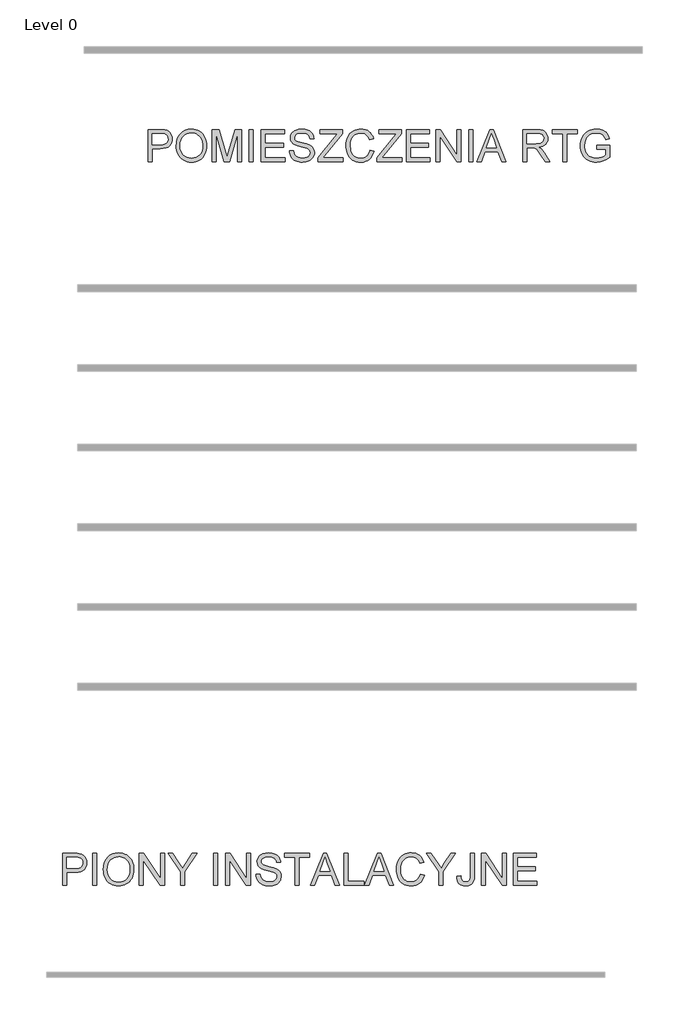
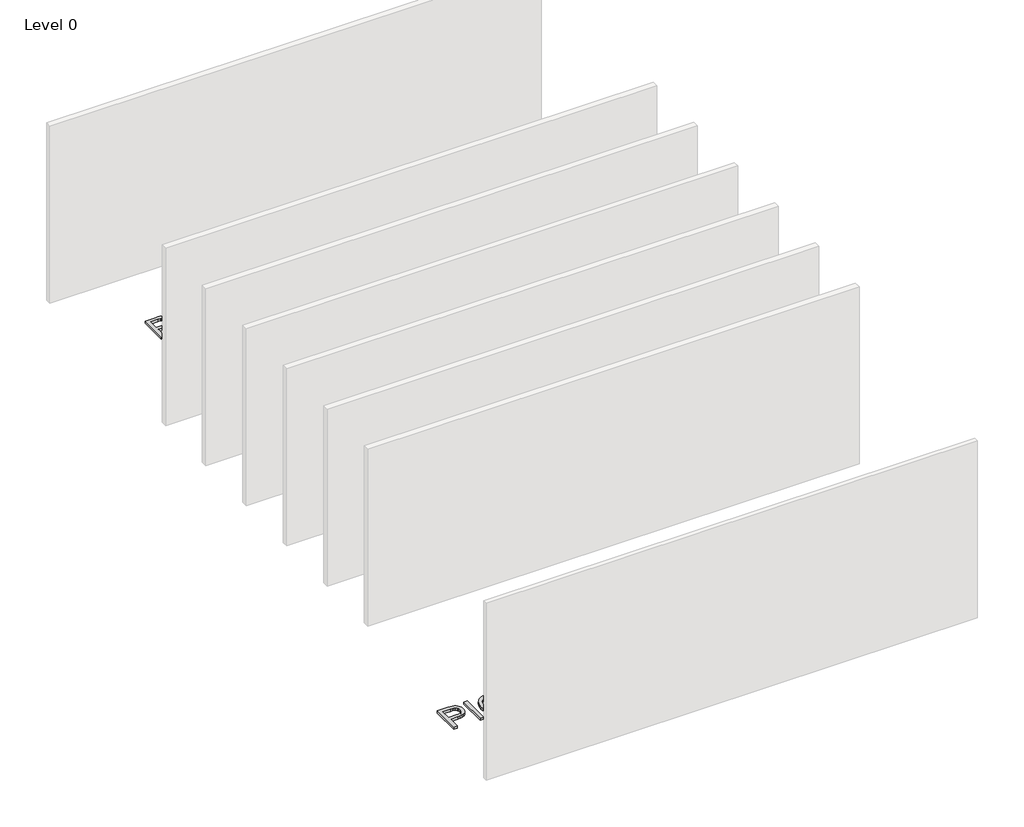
# One storey, part 2 of 3: 2 proxies.
"""IFC4 building model written with IfcOpenShell, lengths in millimetres."""

from ifc_helpers import new_model, si_unit, origin, origin_with_axes, place, context, project, spatial, polyline, outline, extrude, element, save

model = new_model("IFC4")

# Units and contexts
model_context = context("Model", 3, world=origin())
ifc_project = project(units=[si_unit("LENGTHUNIT", "METRE", prefix="MILLI")], contexts=[model_context])

# Site, building, storey
site = spatial("IfcSite", under=ifc_project)
building = spatial("IfcBuilding", under=site)
storey = spatial("IfcBuildingStorey", under=building, Name="Level 0", Elevation=0.0)

# Proxies
placement = place(None, origin())
element("IfcBuildingElementProxy", 1, Name="600mm Arial", ObjectType="600mm Arial", at=placement, inside=storey, context=model_context, shape_type="SweptSolid", body=[
    extrude(outline(polyline([(-3413.91469, -45.2086998), (-3413.91469, 557.5291611), (-3190.5367426, 557.5291611), (-3138.5182285, 556.0944213), (-3100.4792302, 551.7902019), (-3060.3249104, 541.0664418), (-3027.2707131, 523.6104411), (-3000.6544508, 498.6312536), (-2979.8139357, 465.3379331), (-2966.3494547, 426.0665301), (-2961.8612944, 383.1530954), (-2964.8917223, 346.1533637), (-2973.9830061, 312.1150821), (-2989.1351458, 281.0382505), (-3010.3481413, 252.9228691), (-3039.4705998, 229.6175447), (-3078.3511281, 212.9708844), (-3126.9897264, 202.9828882), (-3185.3863946, 199.6535562), (-3338.5724574, 199.6535562), (-3338.5724574, -45.2086998), (-3413.91469, -45.2086998)]), holes=[polyline([(-3338.5724574, 274.9957888), (-3180.9718107, 274.9957888), (-3144.7354342, 276.7248341), (-3114.1644404, 281.9119703), (-3089.2588293, 290.5571972), (-3070.018601, 302.6605148), (-3055.6620061, 317.9000265), (-3045.4072955, 335.9538354), (-3039.2544691, 356.8219415), (-3037.203527, 380.504345), (-3042.0411752, 414.3494885), (-3056.5541199, 442.8971314), (-3078.9397393, 464.3814399), (-3107.3954117, 477.0365805), (-3136.4580893, 480.8993415), (-3182.7376443, 482.1869285), (-3338.5724574, 482.1869285), (-3338.5724574, 274.9957888)])]), origin_with_axes(), (0.0, 0.0, 1.0), 50.0),
    extrude(outline(polyline([(-2848.8479455, -45.2086998), (-2848.8479455, 557.5291611), (-2773.5057128, 557.5291611), (-2773.5057128, -45.2086998), (-2848.8479455, -45.2086998)])), origin_with_axes(), (0.0, 0.0, 1.0), 50.0),
    extrude(outline(polyline([(-2651.0745848, 248.2139795), (-2646.0529956, 318.9117019), (-2630.9882279, 381.4976264), (-2605.8802817, 435.9717528), (-2589.5601167, 460.1668918), (-2570.7291571, 482.3340813), (-2527.6409784, 519.352207), (-2478.7218701, 545.7937254), (-2423.9718322, 561.6586365), (-2363.3908646, 566.9469401), (-2322.8410717, 564.4637367), (-2284.3330239, 557.0141263), (-2247.8667211, 544.5981089), (-2213.4421634, 527.2156847), (-2182.025041, 505.3910853), (-2154.5810442, 479.6485427), (-2131.1101729, 449.9880568), (-2111.6124271, 416.4096277), (-2096.290142, 379.6766105), (-2085.3456527, 340.5523603), (-2078.7789591, 299.0368772), (-2076.5900612, 255.130161), (-2078.8939222, 210.6440308), (-2085.8055052, 168.5675276), (-2097.3248101, 128.9006514), (-2113.4518371, 91.6434024), (-2133.8049085, 57.7798647), (-2158.0023467, 28.2941228), (-2186.0441518, 3.1861766), (-2217.9303237, -17.5439738), (-2252.4054652, -33.7675698), (-2288.2141789, -45.3558526), (-2325.3564648, -52.3088223), (-2363.832323, -54.6264789), (-2405.0902888, -52.0651005), (-2444.1041744, -44.3809653), (-2480.8739798, -31.5740734), (-2515.399705, -13.6444246), (-2546.7800392, 8.7136036), (-2574.1136715, 34.8056341), (-2597.4006018, 64.6316669), (-2616.6408301, 98.1917019), (-2631.7055978, 134.1383713), (-2642.4661462, 171.1243074), (-2648.9224752, 209.1495102), (-2651.0745848, 248.2139795)]), holes=[polyline([(-2575.7323522, 247.4782155), (-2571.9661603, 197.5290376), (-2560.6675845, 153.1900602), (-2541.8366249, 114.4612831), (-2515.4732814, 81.3427065), (-2483.4261611, 54.8184147), (-2447.543871, 35.8724919), (-2407.8264111, 24.5049383), (-2364.2737814, 20.7157537), (-2319.9761907, 24.5417265), (-2279.7896812, 36.0196447), (-2243.7142531, 55.1495085), (-2211.7499062, 81.9313177), (-2185.5797008, 115.7488701), (-2166.8866969, 155.9859633), (-2155.6708946, 202.6425974), (-2151.9322938, 255.7187722), (-2153.5325805, 290.1985122), (-2158.3334405, 322.4157779), (-2166.3348739, 352.3705694), (-2177.5368807, 380.0628866), (-2191.8153006, 405.129446), (-2209.0459735, 427.2069643), (-2229.2288995, 446.2954413), (-2252.3640785, 462.3948771), (-2277.7341406, 475.1741779), (-2304.6217159, 484.3022499), (-2333.0268044, 489.7790931), (-2362.9494062, 491.6047075), (-2404.9891212, 488.086836), (-2443.9938098, 477.5332212), (-2479.9634718, 459.9438633), (-2512.8981075, 435.3187623), (-2540.3880896, 402.4714986), (-2560.023791, 360.215653), (-2571.8052119, 308.5512253), (-2575.7323522, 247.4782155)])]), origin_with_axes(), (0.0, 0.0, 1.0), 50.0),
    extrude(outline(polyline([(-1972.9944913, -45.2086998), (-1972.9944913, 557.5291611), (-1892.354758, 557.5291611), (-1577.4477701, 80.0183313), (-1577.4477701, 557.5291611), (-1502.1055375, 557.5291611), (-1502.1055375, -45.2086998), (-1582.7452709, -45.2086998), (-1897.6522587, 432.4492827), (-1897.6522587, -45.2086998), (-1972.9944913, -45.2086998)])), origin_with_axes(), (0.0, 0.0, 1.0), 50.0),
    extrude(outline(polyline([(-1200.7366071, -45.2086998), (-1200.7366071, 210.1014048), (-1436.181084, 557.5291611), (-1347.3007939, 557.5291611), (-1221.6323044, 371.9694827), (-1157.3265316, 277.3502335), (-1092.8736061, 378.7385114), (-978.8301876, 557.5291611), (-889.9498975, 557.5291611), (-1125.3943745, 210.1014048), (-1125.3943745, -45.2086998), (-1200.7366071, -45.2086998)])), origin_with_axes(), (0.0, 0.0, 1.0), 50.0),
    extrude(outline(polyline([(-579.163188, -45.2086998), (-579.163188, 557.5291611), (-503.8209554, 557.5291611), (-503.8209554, -45.2086998), (-579.163188, -45.2086998)])), origin_with_axes(), (0.0, 0.0, 1.0), 50.0),
    extrude(outline(polyline([(-353.1364902, -45.2086998), (-353.1364902, 557.5291611), (-272.4967568, 557.5291611), (42.410231, 80.0183313), (42.410231, 557.5291611), (117.7524636, 557.5291611), (117.7524636, -45.2086998), (37.1127303, -45.2086998), (-277.7942576, 432.4492827), (-277.7942576, -45.2086998), (-353.1364902, -45.2086998)])), origin_with_axes(), (0.0, 0.0, 1.0), 50.0),
    extrude(outline(polyline([(221.3480335, 161.9824399), (296.6902661, 161.9824399), (305.335493, 120.1726511), (320.9704778, 86.5666308), (345.3610541, 59.8951862), (380.2730554, 38.8891243), (422.9473668, 25.2590963), (470.6248734, 20.7157537), (512.6002091, 24.1554504), (549.3516204, 34.4745403), (579.1316679, 50.8085009), (600.1929121, 72.2928094), (612.7192941, 96.9592972), (616.8947547, 122.8397956), (613.7677577, 148.0581063), (604.3867669, 169.8551145), (585.3304795, 188.4515494), (553.1775931, 204.0681401), (443.4751822, 232.8365121), (371.4622816, 251.8744054), (325.3850617, 269.9925936), (287.8794923, 295.3396631), (261.3000182, 326.0578097), (245.4626983, 361.4848458), (240.1835916, 400.9585839), (241.816068, 423.3947871), (246.7134971, 445.0860292), (254.8758788, 466.0323103), (266.3032133, 486.2336304), (280.8667418, 504.8668535), (298.4377056, 521.1088435), (319.0161047, 534.9596007), (342.6019391, 546.4191248), (395.6137346, 561.8149863), (454.2909128, 566.9469401), (517.8609216, 561.575863), (573.4846793, 545.4626316), (597.8200733, 533.4604815), (619.1756231, 518.9383398), (637.5513287, 501.8962063), (652.9471902, 482.3340813), (665.2436459, 460.8221816), (674.3211342, 437.9307244), (680.1796549, 413.6597098), (682.8192082, 388.0091377), (607.4769756, 388.0091377), (602.4369923, 412.0502261), (593.6446126, 432.9643175), (581.0998366, 450.751412), (564.8026642, 465.4115095), (544.4495928, 476.8710336), (519.7371198, 485.056408), (490.6652451, 489.9676327), (457.2339688, 491.6047075), (422.7358347, 489.9860268), (393.2592898, 485.1299844), (368.8043342, 477.0365805), (349.3709678, 465.7058151), (334.5637175, 452.0849842), (323.9871101, 437.121384), (317.6411457, 420.8150146), (315.5258243, 403.1658759), (317.0249434, 387.9815465), (321.5223008, 374.2135629), (329.0178964, 361.8619249), (339.5117303, 350.9266326), (356.0296319, 340.5707544), (382.038889, 330.1045116), (462.5314695, 308.8409323), (545.599224, 288.6442108), (595.8519046, 271.0226632), (638.8021275, 243.689031), (655.4074011, 227.6217848), (668.766116, 209.954252), (679.0346222, 190.778403), (686.3692695, 170.1862083), (692.2369873, 124.7527819), (690.5493287, 101.1853416), (685.4863527, 78.30768), (677.0480594, 56.1197972), (665.2344489, 34.6216931), (650.2524546, 14.6457008), (632.3090103, -2.9758468), (611.4041159, -18.2429496), (587.5377715, -31.1556076), (561.4043543, -41.4241138), (533.6982415, -48.7587611), (473.5679294, -54.6264789), (435.0276919, -53.0445863), (399.7524071, -48.2989086), (367.7420749, -40.3894457), (338.9966955, -29.3161976), (313.3415249, -15.0607703), (290.6018191, 2.3952303), (270.7775781, 23.0518044), (253.8688019, 46.9089518), (240.247971, 73.1941203), (230.287566, 101.1347578), (223.9875868, 130.7308644), (221.3480335, 161.9824399)])), origin_with_axes(), (0.0, 0.0, 1.0), 50.0),
    extrude(outline(polyline([(955.9348015, -45.2086998), (955.9348015, 482.1869285), (758.1614409, 482.1869285), (758.1614409, 557.5291611), (1229.0503947, 557.5291611), (1229.0503947, 482.1869285), (1031.2770341, 482.1869285), (1031.2770341, -45.2086998), (955.9348015, -45.2086998)])), origin_with_axes(), (0.0, 0.0, 1.0), 50.0),
    extrude(outline(polyline([(1243.6185217, -45.2086998), (1484.2133465, 557.5291611), (1548.3719665, 557.5291611), (1788.9667913, -45.2086998), (1709.3571276, -45.2086998), (1640.3424653, 143.1468817), (1392.0956949, 143.1468817), (1323.2281854, -45.2086998), (1243.6185217, -45.2086998)]), holes=[polyline([(1419.760421, 218.4891143), (1612.824892, 218.4891143), (1558.5255096, 366.671982), (1516.2926565, 482.1869285), (1478.768693, 379.6214282), (1419.760421, 218.4891143)])]), origin_with_axes(), (0.0, 0.0, 1.0), 50.0),
    extrude(outline(polyline([(1869.4593719, -45.2086998), (1869.4593719, 557.5291611), (1944.8016045, 557.5291611), (1944.8016045, 30.1335328), (2246.1705349, 30.1335328), (2246.1705349, -45.2086998), (1869.4593719, -45.2086998)])), origin_with_axes(), (0.0, 0.0, 1.0), 50.0),
    extrude(outline(polyline([(2260.738662, -45.2086998), (2501.3334868, 557.5291611), (2565.4921068, 557.5291611), (2806.0869316, -45.2086998), (2726.4772678, -45.2086998), (2657.4626056, 143.1468817), (2409.2158352, 143.1468817), (2340.3483257, -45.2086998), (2260.738662, -45.2086998)]), holes=[polyline([(2436.8805612, 218.4891143), (2629.9450323, 218.4891143), (2575.6456498, 366.671982), (2533.4127968, 482.1869285), (2495.8888333, 379.6214282), (2436.8805612, 218.4891143)])]), origin_with_axes(), (0.0, 0.0, 1.0), 50.0),
    extrude(outline(polyline([(3310.3795706, 169.0457742), (3385.7218032, 149.6216048), (3370.8133853, 102.7672342), (3350.9569547, 61.8265667), (3326.1525111, 26.7996022), (3296.4000548, -2.3136592), (3262.3709702, -25.2005178), (3224.7366421, -41.548274), (3183.4970705, -51.3569277), (3138.6522552, -54.6264789), (3092.7083926, -52.1524725), (3051.2618873, -44.7304532), (3014.3127394, -32.3604212), (2981.8609489, -15.0423762), (2953.4604589, 6.9661641), (2928.6652124, 33.4076825), (2907.4752095, 64.282179), (2889.8904501, 99.5896535), (2876.0810797, 137.8033957), (2866.2172437, 177.3966954), (2860.2989421, 218.3695527), (2858.3261749, 260.7219674), (2860.5564595, 306.1645908), (2867.2473133, 348.608976), (2878.3987363, 388.0551229), (2894.0107285, 424.5030316), (2913.7338019, 457.3502953), (2937.2184688, 485.9945071), (2964.4647291, 510.4356672), (2995.4725827, 530.6737754), (3029.1889676, 546.543285), (3064.5608214, 557.878649), (3101.5881442, 564.6798673), (3140.270936, 566.9469401), (3183.3637132, 564.0130812), (3222.878838, 555.2115045), (3258.8163104, 540.5422099), (3291.1761304, 520.0051976), (3319.4248691, 494.1430933), (3343.0290977, 463.4985231), (3361.988816, 428.071487), (3376.3040241, 387.8619849), (3300.9617915, 369.9093435), (3289.0975972, 399.5376397), (3274.8421699, 424.8525195), (3258.1955096, 445.8539829), (3239.1576163, 462.5420299), (3217.6181255, 475.2569514), (3193.4666725, 484.3390381), (3166.7032574, 489.7882902), (3137.3278801, 491.6047075), (3103.5287218, 489.5905536), (3072.6174371, 483.5480918), (3044.5940261, 473.4773222), (3019.4584888, 459.3782448), (2997.5281234, 441.8854559), (2979.120228, 421.633552), (2964.2348028, 398.6225332), (2952.8718477, 372.8523995), (2938.4692676, 317.7068884), (2933.6684075, 260.8691202), (2939.3521844, 191.2658467), (2946.4569054, 159.9958771), (2956.4035148, 131.0803523), (2969.3529611, 105.0940878), (2985.4661925, 82.6118994), (3004.743209, 63.633787), (3027.1840107, 48.1597505), (3051.6987472, 36.1530019), (3077.1975679, 27.5767529), (3103.6804731, 22.4310035), (3131.1474625, 20.7157537), (3163.9027557, 23.0518044), (3194.0368896, 30.0599564), (3221.5498643, 41.7402097), (3246.4416798, 58.0925644), (3268.1237249, 79.043444), (3286.0073884, 104.5192722), (3300.0926703, 134.5200489), (3310.3795706, 169.0457742)])), origin_with_axes(), (0.0, 0.0, 1.0), 50.0),
    extrude(outline(polyline([(3658.8373964, -45.2086998), (3658.8373964, 210.1014048), (3423.3929195, 557.5291611), (3512.2732095, 557.5291611), (3637.9416991, 371.9694827), (3702.2474719, 277.3502335), (3766.7003974, 378.7385114), (3880.7438159, 557.5291611), (3969.6241059, 557.5291611), (3734.179629, 210.1014048), (3734.179629, -45.2086998), (3658.8373964, -45.2086998)])), origin_with_axes(), (0.0, 0.0, 1.0), 50.0),
    extrude(outline(polyline([(3997.8774432, 124.0170179), (4073.2196758, 133.7291026), (4075.8776232, 103.7743112), (4081.0555623, 78.9514735), (4088.753493, 59.2605897), (4098.9714155, 44.7016598), (4111.5529797, 34.2078259), (4126.3418359, 26.7122302), (4143.3379841, 22.2148728), (4162.5414242, 20.7157537), (4190.3716972, 24.1186622), (4214.1184799, 34.3273875), (4232.4390033, 50.4038307), (4243.990498, 71.4098926), (4250.1157332, 101.8153395), (4252.1574782, 146.0899377), (4252.1574782, 557.5291611), (4327.4997109, 557.5291611), (4327.4997109, 147.4143128), (4322.9563682, 80.331031), (4317.2771899, 53.2043324), (4309.3263403, 30.354262), (4298.9060828, 10.8703118), (4285.8186808, -6.158026), (4270.0641344, -20.7307516), (4251.6424435, -32.8478648), (4208.7290087, -49.1818254), (4159.0097571, -54.6264789), (4121.8812667, -51.8167802), (4089.3696954, -43.387684), (4061.4750431, -29.3391903), (4038.1973098, -9.6712991), (4019.9503629, 15.5424131), (4007.1480695, 46.2283701), (3999.7904296, 82.3865717), (3997.8774432, 124.0170179)])), origin_with_axes(), (0.0, 0.0, 1.0), 50.0),
    extrude(outline(polyline([(4459.3486179, -45.2086998), (4459.3486179, 557.5291611), (4539.9883513, 557.5291611), (4854.8953391, 80.0183313), (4854.8953391, 557.5291611), (4930.2375718, 557.5291611), (4930.2375718, -45.2086998), (4849.5978384, -45.2086998), (4534.6908505, 432.4492827), (4534.6908505, -45.2086998), (4459.3486179, -45.2086998)])), origin_with_axes(), (0.0, 0.0, 1.0), 50.0),
    extrude(outline(polyline([(5062.0864788, -45.2086998), (5062.0864788, 557.5291611), (5495.3043163, 557.5291611), (5495.3043163, 482.1869285), (5137.4287114, 482.1869285), (5137.4287114, 303.249126), (5476.4687582, 303.249126), (5476.4687582, 227.9068934), (5137.4287114, 227.9068934), (5137.4287114, 30.1335328), (5504.7220954, 30.1335328), (5504.7220954, -45.2086998), (5062.0864788, -45.2086998)])), origin_with_axes(), (0.0, 0.0, 1.0), 50.0),
])
element("IfcBuildingElementProxy", 2, Name="600mm Arial", ObjectType="600mm Arial", at=placement, inside=storey, context=model_context, shape_type="SweptSolid", body=[
    extrude(outline(polyline([(-1809.4556873, 13552.9545985), (-1809.4556873, 14155.6924594), (-1586.0777399, 14155.6924594), (-1534.0592257, 14154.2577196), (-1496.0202274, 14149.9535003), (-1455.8659077, 14139.2297401), (-1422.8117104, 14121.7737394), (-1396.1954481, 14096.794552), (-1375.354933, 14063.5012314), (-1361.890452, 14024.2298284), (-1357.4022917, 13981.3163937), (-1360.4327196, 13944.316662), (-1369.5240034, 13910.2783804), (-1384.6761431, 13879.2015489), (-1405.8891386, 13851.0861674), (-1435.0115971, 13827.780843), (-1473.8921254, 13811.1341827), (-1522.5307237, 13801.1461865), (-1580.9273919, 13797.8168545), (-1734.1134547, 13797.8168545), (-1734.1134547, 13552.9545985), (-1809.4556873, 13552.9545985)]), holes=[polyline([(-1734.1134547, 13873.1590871), (-1576.512808, 13873.1590871), (-1540.2764315, 13874.8881325), (-1509.7054377, 13880.0752686), (-1484.7998266, 13888.7204955), (-1465.5595982, 13900.8238131), (-1451.2030034, 13916.0633248), (-1440.9482928, 13934.1171337), (-1434.7954664, 13954.9852399), (-1432.7445243, 13978.6676433), (-1437.5821725, 14012.5127869), (-1452.0951172, 14041.0604297), (-1474.4807366, 14062.5447382), (-1502.936409, 14075.1998789), (-1531.9990866, 14079.0626398), (-1578.2786416, 14080.3502268), (-1734.1134547, 14080.3502268), (-1734.1134547, 13873.1590871)])]), origin_with_axes(), (0.0, 0.0, 1.0), 50.0),
    extrude(outline(polyline([(-1282.060059, 13846.3772779), (-1277.0384698, 13917.0750003), (-1261.9737021, 13979.6609247), (-1236.8657559, 14034.1350511), (-1220.5455909, 14058.3301901), (-1201.7146313, 14080.4973796), (-1158.6264526, 14117.5155053), (-1109.7073443, 14143.9570238), (-1054.9573064, 14159.8219348), (-994.3763388, 14165.1102385), (-953.8265459, 14162.627035), (-915.3184981, 14155.1774246), (-878.8521953, 14142.7614073), (-844.4276376, 14125.378983), (-813.0105152, 14103.5543836), (-785.5665184, 14077.811841), (-762.0956471, 14048.1513552), (-742.5979013, 14014.572926), (-727.2756162, 13977.8399088), (-716.3311269, 13938.7156586), (-709.7644333, 13897.2001755), (-707.5755354, 13853.2934594), (-709.8793964, 13808.8073291), (-716.7909794, 13766.7308259), (-728.3102843, 13727.0639498), (-744.4373113, 13689.8067007), (-764.7903827, 13655.943163), (-788.9878209, 13626.4574211), (-817.029626, 13601.349475), (-848.9157979, 13580.6193245), (-883.3909394, 13564.3957285), (-919.1996531, 13552.8074457), (-956.341939, 13545.854476), (-994.8177972, 13543.5368194), (-1036.075763, 13546.0981978), (-1075.0896486, 13553.782333), (-1111.859454, 13566.5892249), (-1146.3851792, 13584.5188737), (-1177.7655134, 13606.8769019), (-1205.0991457, 13632.9689325), (-1228.386076, 13662.7949652), (-1247.6263043, 13696.3550002), (-1262.691072, 13732.3016697), (-1273.4516204, 13769.2876058), (-1279.9079494, 13807.3128085), (-1282.060059, 13846.3772779)]), holes=[polyline([(-1206.7178264, 13845.6415139), (-1202.9516345, 13795.692336), (-1191.6530587, 13751.3533585), (-1172.8220991, 13712.6245815), (-1146.4587556, 13679.5060048), (-1114.4116353, 13652.981713), (-1078.5293452, 13634.0357902), (-1038.8118853, 13622.6682366), (-995.2592556, 13618.879052), (-950.9616649, 13622.7050248), (-910.7751554, 13634.182943), (-874.6997273, 13653.3128068), (-842.7353804, 13680.094616), (-816.565175, 13713.9121684), (-797.8721711, 13754.1492617), (-786.6563688, 13800.8058957), (-782.917768, 13853.8820706), (-784.5180547, 13888.3618106), (-789.3189147, 13920.5790763), (-797.3203481, 13950.5338677), (-808.5223549, 13978.2261849), (-822.8007748, 14003.2927444), (-840.0314477, 14025.3702626), (-860.2143737, 14044.4587396), (-883.3495527, 14060.5581754), (-908.7196148, 14073.3374763), (-935.6071901, 14082.4655483), (-964.0122786, 14087.9423915), (-993.9348804, 14089.7680059), (-1035.9745954, 14086.2501343), (-1074.979284, 14075.6965195), (-1110.948946, 14058.1071617), (-1143.8835817, 14033.4820606), (-1171.3735637, 14000.634797), (-1191.0092652, 13958.3789513), (-1202.7906861, 13906.7145236), (-1206.7178264, 13845.6415139)])]), origin_with_axes(), (0.0, 0.0, 1.0), 50.0),
    extrude(outline(polyline([(-603.9799655, 13552.9545985), (-603.9799655, 14155.6924594), (-474.3383504, 14155.6924594), (-351.0243057, 13730.8623314), (-326.1554828, 13642.1291941), (-299.2265207, 13738.2199713), (-177.9726151, 14155.6924594), (-48.331, 14155.6924594), (-48.331, 13552.9545985), (-123.6732326, 13552.9545985), (-123.6732326, 14080.3502268), (-275.0934618, 13552.9545985), (-377.2175037, 13552.9545985), (-528.6377329, 14080.3502268), (-528.6377329, 13552.9545985), (-603.9799655, 13552.9545985)])), origin_with_axes(), (0.0, 0.0, 1.0), 50.0),
    extrude(outline(polyline([(92.9356861, 13552.9545985), (92.9356861, 14155.6924594), (168.2779187, 14155.6924594), (168.2779187, 13552.9545985), (92.9356861, 13552.9545985)])), origin_with_axes(), (0.0, 0.0, 1.0), 50.0),
    extrude(outline(polyline([(318.962384, 13552.9545985), (318.962384, 14155.6924594), (752.1802215, 14155.6924594), (752.1802215, 14080.3502268), (394.3046166, 14080.3502268), (394.3046166, 13901.4124243), (733.3446633, 13901.4124243), (733.3446633, 13826.0701917), (394.3046166, 13826.0701917), (394.3046166, 13628.2968311), (761.5980006, 13628.2968311), (761.5980006, 13552.9545985), (318.962384, 13552.9545985)])), origin_with_axes(), (0.0, 0.0, 1.0), 50.0),
    extrude(outline(polyline([(846.3580122, 13760.1457382), (921.7002449, 13760.1457382), (930.3454717, 13718.3359494), (945.9804565, 13684.7299292), (970.3710328, 13658.0584845), (1005.2830342, 13637.0524226), (1047.9573456, 13623.4223947), (1095.6348522, 13618.879052), (1137.6101878, 13622.3187487), (1174.3615991, 13632.6378387), (1204.1416467, 13648.9717992), (1225.2028909, 13670.4561078), (1237.7292728, 13695.1225955), (1241.9047335, 13721.0030939), (1238.7777365, 13746.2214047), (1229.3967456, 13768.0184129), (1210.3404583, 13786.6148477), (1178.1875719, 13802.2314384), (1068.4851609, 13830.9998105), (996.4722604, 13850.0377037), (950.3950405, 13868.155892), (912.8894711, 13893.5029614), (886.3099969, 13924.221108), (870.472677, 13959.6481442), (865.1935704, 13999.1218822), (866.8260468, 14021.5580854), (871.7234758, 14043.2493276), (879.8858576, 14064.1956087), (891.3131921, 14084.3969287), (905.8767205, 14103.0301518), (923.4476843, 14119.2721419), (944.0260834, 14133.122899), (967.6119179, 14144.5824231), (1020.6237134, 14159.9782846), (1079.3008916, 14165.1102385), (1142.8709004, 14159.7391613), (1198.494658, 14143.62593), (1222.830052, 14131.6237799), (1244.1856018, 14117.1016381), (1262.5613075, 14100.0595047), (1277.957169, 14080.4973796), (1290.2536247, 14058.9854799), (1299.3311129, 14036.0940228), (1305.1896337, 14011.8230081), (1307.829187, 13986.172436), (1232.4869544, 13986.172436), (1227.4469711, 14010.2135244), (1218.6545914, 14031.1276158), (1206.1098153, 14048.9147103), (1189.8126429, 14063.5748078), (1169.4595716, 14075.034332), (1144.7470985, 14083.2197063), (1115.6752239, 14088.130931), (1082.2439476, 14089.7680059), (1047.7458135, 14088.1493251), (1018.2692686, 14083.2932827), (993.814313, 14075.1998789), (974.3809466, 14063.8691134), (959.5736963, 14050.2482825), (948.9970889, 14035.2846824), (942.6511245, 14018.9783129), (940.535803, 14001.3291742), (942.0349221, 13986.1448449), (946.5322795, 13972.3768612), (954.0278752, 13960.0252232), (964.5217091, 13949.0899309), (981.0396107, 13938.7340527), (1007.0488677, 13928.26781), (1087.5414483, 13907.0042307), (1170.6092028, 13886.8075091), (1220.8618833, 13869.1859616), (1263.8121063, 13841.8523293), (1280.4173798, 13825.7850832), (1293.7760948, 13808.1175504), (1304.044601, 13788.9417014), (1311.3792483, 13768.3495067), (1317.2469661, 13722.9160803), (1315.5593074, 13699.34864), (1310.4963315, 13676.4709784), (1302.0580382, 13654.2830955), (1290.2444276, 13632.7849915), (1275.2624334, 13612.8089991), (1257.3189891, 13595.1874515), (1236.4140947, 13579.9203487), (1212.5477502, 13567.0076907), (1186.414333, 13556.7391845), (1158.7082203, 13549.4045372), (1098.5779081, 13543.5368194), (1060.0376706, 13545.118712), (1024.7623858, 13549.8643897), (992.7520537, 13557.7738526), (964.0066743, 13568.8471007), (938.3515037, 13583.102528), (915.6117978, 13600.5585287), (895.7875568, 13621.2151027), (878.8787806, 13645.0722501), (865.2579497, 13671.3574186), (855.2975447, 13699.2980562), (848.9975656, 13728.8941627), (846.3580122, 13760.1457382)])), origin_with_axes(), (0.0, 0.0, 1.0), 50.0),
    extrude(outline(polyline([(1383.1714196, 13552.9545985), (1383.1714196, 13631.0927343), (1691.4565316, 14008.5396613), (1750.0233452, 14080.3502268), (1420.8425359, 14080.3502268), (1420.8425359, 14155.6924594), (1844.6425944, 14155.6924594), (1844.6425944, 14080.3502268), (1507.2212284, 13667.2923226), (1475.436224, 13628.2968311), (1854.0603734, 13628.2968311), (1854.0603734, 13552.9545985), (1383.1714196, 13552.9545985)])), origin_with_axes(), (0.0, 0.0, 1.0), 50.0),
    extrude(outline(polyline([(2362.6204436, 13767.2090725), (2437.9626762, 13747.7849031), (2423.0542583, 13700.9305325), (2403.1978276, 13659.989865), (2378.3933841, 13624.9629005), (2348.6409278, 13595.8496391), (2314.6118432, 13572.9627805), (2276.9775151, 13556.6150244), (2235.7379434, 13546.8063707), (2190.8931282, 13543.5368194), (2144.9492655, 13546.0108258), (2103.5027603, 13553.4328451), (2066.5536124, 13565.8028772), (2034.1018219, 13583.1209221), (2005.7013318, 13605.1294625), (1980.9060854, 13631.5709809), (1959.7160825, 13662.4454773), (1942.1313231, 13697.7529518), (1928.3219527, 13735.966694), (1918.4581167, 13775.5599938), (1912.5398151, 13816.532851), (1910.5670479, 13858.8852657), (1912.7973325, 13904.3278891), (1919.4881863, 13946.7722743), (1930.6396093, 13986.2184213), (1946.2516014, 14022.6663299), (1965.9746749, 14055.5135936), (1989.4593418, 14084.1578054), (2016.705602, 14108.5989655), (2047.7134557, 14128.8370737), (2081.4298406, 14144.7065833), (2116.8016944, 14156.0419473), (2153.8290172, 14162.8431657), (2192.511809, 14165.1102385), (2235.6045862, 14162.1763796), (2275.119711, 14153.3748028), (2311.0571834, 14138.7055083), (2343.4170034, 14118.1684959), (2371.6657421, 14092.3063916), (2395.2699706, 14061.6618214), (2414.229689, 14026.2347853), (2428.5448971, 13986.0252832), (2353.2026645, 13968.0726419), (2341.3384701, 13997.700938), (2327.0830428, 14023.0158178), (2310.4363826, 14044.0172812), (2291.3984893, 14060.7053282), (2269.8589985, 14073.4202497), (2245.7075455, 14082.5023365), (2218.9441304, 14087.9515885), (2189.568753, 14089.7680059), (2155.7695947, 14087.7538519), (2124.8583101, 14081.7113902), (2096.8348991, 14071.6406205), (2071.6993618, 14057.5415431), (2049.7689963, 14040.0487542), (2031.361101, 14019.7968504), (2016.4756758, 13996.7858316), (2005.1127207, 13971.0156978), (1990.7101405, 13915.8701867), (1985.9092805, 13859.0324185), (1991.5930573, 13789.429145), (1998.6977784, 13758.1591754), (2008.6443878, 13729.2436506), (2021.593834, 13703.2573862), (2037.7070654, 13680.7751977), (2056.984082, 13661.7970853), (2079.4248837, 13646.3230489), (2103.9396201, 13634.3163003), (2129.4384409, 13625.7400512), (2155.9213461, 13620.5943018), (2183.3883355, 13618.879052), (2216.1436287, 13621.2151027), (2246.2777626, 13628.2232547), (2273.7907373, 13639.9035081), (2298.6825528, 13656.2558627), (2320.3645979, 13677.2067424), (2338.2482614, 13702.6825705), (2352.3335433, 13732.6833472), (2362.6204436, 13767.2090725)])), origin_with_axes(), (0.0, 0.0, 1.0), 50.0),
    extrude(outline(polyline([(2494.4693506, 13552.9545985), (2494.4693506, 13631.0927343), (2802.7544626, 14008.5396613), (2861.3212762, 14080.3502268), (2532.1404669, 14080.3502268), (2532.1404669, 14155.6924594), (2955.9405254, 14155.6924594), (2955.9405254, 14080.3502268), (2618.5191594, 13667.2923226), (2586.734155, 13628.2968311), (2965.3583045, 13628.2968311), (2965.3583045, 13552.9545985), (2494.4693506, 13552.9545985)])), origin_with_axes(), (0.0, 0.0, 1.0), 50.0),
    extrude(outline(polyline([(3050.1183162, 13552.9545985), (3050.1183162, 14155.6924594), (3483.3361537, 14155.6924594), (3483.3361537, 14080.3502268), (3125.4605488, 14080.3502268), (3125.4605488, 13901.4124243), (3464.5005955, 13901.4124243), (3464.5005955, 13826.0701917), (3125.4605488, 13826.0701917), (3125.4605488, 13628.2968311), (3492.7539328, 13628.2968311), (3492.7539328, 13552.9545985), (3050.1183162, 13552.9545985)])), origin_with_axes(), (0.0, 0.0, 1.0), 50.0),
    extrude(outline(polyline([(3605.7672817, 13552.9545985), (3605.7672817, 14155.6924594), (3686.407015, 14155.6924594), (4001.3140029, 13678.1816297), (4001.3140029, 14155.6924594), (4076.6562355, 14155.6924594), (4076.6562355, 13552.9545985), (3996.0165022, 13552.9545985), (3681.1095143, 14030.612581), (3681.1095143, 13552.9545985), (3605.7672817, 13552.9545985)])), origin_with_axes(), (0.0, 0.0, 1.0), 50.0),
    extrude(outline(polyline([(4217.9229216, 13552.9545985), (4217.9229216, 14155.6924594), (4293.2651543, 14155.6924594), (4293.2651543, 13552.9545985), (4217.9229216, 13552.9545985)])), origin_with_axes(), (0.0, 0.0, 1.0), 50.0),
    extrude(outline(polyline([(4373.7577348, 13552.9545985), (4614.3525596, 14155.6924594), (4678.5111796, 14155.6924594), (4919.1060045, 13552.9545985), (4839.4963407, 13552.9545985), (4770.4816784, 13741.31018), (4522.2349081, 13741.31018), (4453.3673986, 13552.9545985), (4373.7577348, 13552.9545985)]), holes=[polyline([(4549.8996341, 13816.6524126), (4742.9641052, 13816.6524126), (4688.6647227, 13964.8352803), (4646.4318696, 14080.3502268), (4608.9079061, 13977.7847265), (4549.8996341, 13816.6524126)])]), origin_with_axes(), (0.0, 0.0, 1.0), 50.0),
    extrude(outline(polyline([(5235.0430619, 13552.9545985), (5235.0430619, 14155.6924594), (5494.7677505, 14155.6924594), (5564.5733591, 14151.6273634), (5615.3594685, 14139.4320752), (5634.9583818, 14129.7383846), (5652.4787618, 14116.9176971), (5667.9206086, 14100.9700126), (5681.2839221, 14081.8953312), (5692.067463, 14060.7191238), (5699.7699923, 14038.4668616), (5704.3915099, 14015.1385446), (5705.9320157, 13990.7341728), (5703.3798344, 13959.7769029), (5695.7232904, 13931.3580187), (5682.9623837, 13905.4775204), (5665.0971143, 13882.1354078), (5641.8975559, 13862.076642), (5613.1337825, 13846.0461841), (5578.8057938, 13834.044034), (5538.9135899, 13826.0701917), (5563.7456246, 13809.8465957), (5581.7350542, 13793.8437289), (5612.6003536, 13757.2394704), (5642.8034654, 13716.2942044), (5743.3088264, 13552.9545985), (5655.7529116, 13552.9545985), (5577.3204702, 13677.8873241), (5520.666643, 13760.5871966), (5499.6053987, 13784.7018614), (5480.8618111, 13799.6562645), (5445.0301048, 13814.0036623), (5401.3257237, 13816.6524126), (5310.3852945, 13816.6524126), (5310.3852945, 13552.9545985), (5235.0430619, 13552.9545985)]), holes=[polyline([(5310.3852945, 13891.9946453), (5479.0224011, 13891.9946453), (5527.4540658, 13894.6617897), (5565.0332116, 13902.6632231), (5593.323337, 13916.5323743), (5613.8879405, 13936.8026723), (5626.4143225, 13961.3220072), (5630.5897831, 13987.9382696), (5628.5986218, 14007.2060891), (5622.6251379, 14024.6896809), (5612.6693314, 14040.3890451), (5598.7312023, 14054.3041815), (5580.4888539, 14065.6993263), (5557.6203894, 14073.8387155), (5530.1258088, 14078.722349), (5498.0051121, 14080.3502268), (5310.3852945, 14080.3502268), (5310.3852945, 13891.9946453)])]), origin_with_axes(), (0.0, 0.0, 1.0), 50.0),
    extrude(outline(polyline([(5988.465388, 13552.9545985), (5988.465388, 14080.3502268), (5790.6920274, 14080.3502268), (5790.6920274, 14155.6924594), (6261.5809812, 14155.6924594), (6261.5809812, 14080.3502268), (6063.8076206, 14080.3502268), (6063.8076206, 13552.9545985), (5988.465388, 13552.9545985)])), origin_with_axes(), (0.0, 0.0, 1.0), 50.0),
    extrude(outline(polyline([(6628.8743652, 13788.3990754), (6628.8743652, 13863.741308), (6873.7366212, 13863.741308), (6873.7366212, 13638.4503742), (6814.2317085, 13597.0636497), (6752.8505976, 13567.3755727), (6689.7404413, 13549.4965077), (6625.0483925, 13543.5368194), (6581.7716743, 13545.9050598), (6540.5275041, 13553.0097808), (6501.3158819, 13564.8509825), (6464.1368078, 13581.4286649), (6430.1904967, 13602.4945077), (6400.6771636, 13627.8001904), (6375.5968086, 13657.3457132), (6354.9494316, 13691.1310759), (6338.8224047, 13728.0756253), (6327.3030997, 13767.0987079), (6320.3915167, 13808.2003238), (6318.0876557, 13851.380473), (6320.3823197, 13894.5652207), (6327.2663115, 13936.2692434), (6338.7396312, 13976.492541), (6354.8022788, 14015.2351136), (6375.1691458, 14050.795507), (6399.5551235, 14081.4722669), (6427.9602121, 14107.2653933), (6460.3844114, 14128.1748862), (6496.1241473, 14144.3341028), (6534.4758453, 14155.8764004), (6575.4395054, 14162.801779), (6619.0151278, 14165.1102385), (6681.0768204, 14159.7575554), (6736.884519, 14143.6995064), (6761.8039257, 14131.9456766), (6783.8814439, 14118.0949195), (6803.1170737, 14102.147235), (6819.5108151, 14084.1026231), (6845.8695601, 14040.0855424), (6865.0546061, 13984.4066024), (6795.5984854, 13964.8352803), (6780.0922594, 14004.5481417), (6761.2383071, 14034.5121302), (6736.2959078, 14057.1000847), (6702.5243407, 14074.6848441), (6662.2596563, 14085.9972154), (6617.8379054, 14089.7680059), (6565.8377854, 14085.7029098), (6521.3792462, 14073.5076217), (6484.6278349, 14054.7088517), (6455.7490983, 14030.8333102), (6433.5842081, 14003.1134019), (6416.974336, 13972.7815314), (6399.3160002, 13915.9069749), (6393.4298883, 13854.4706817), (6395.2003204, 13816.8501492), (6400.5116167, 13782.420993), (6409.3637772, 13751.1832131), (6421.7568019, 13723.1368095), (6437.5297425, 13698.3875482), (6456.5216505, 13677.0411955), (6478.732526, 13659.0977512), (6504.1623689, 13644.5572153), (6531.6201613, 13633.3230189), (6559.9148852, 13625.2985929), (6589.0465407, 13620.4839372), (6619.0151278, 13618.879052), (6671.1991888, 13623.7167003), (6722.0956628, 13638.229645), (6766.2966845, 13658.2240314), (6798.3943886, 13679.5060048), (6798.3943886, 13788.3990754), (6628.8743652, 13788.3990754)])), origin_with_axes(), (0.0, 0.0, 1.0), 50.0),
])

save(model, "model.ifc")
